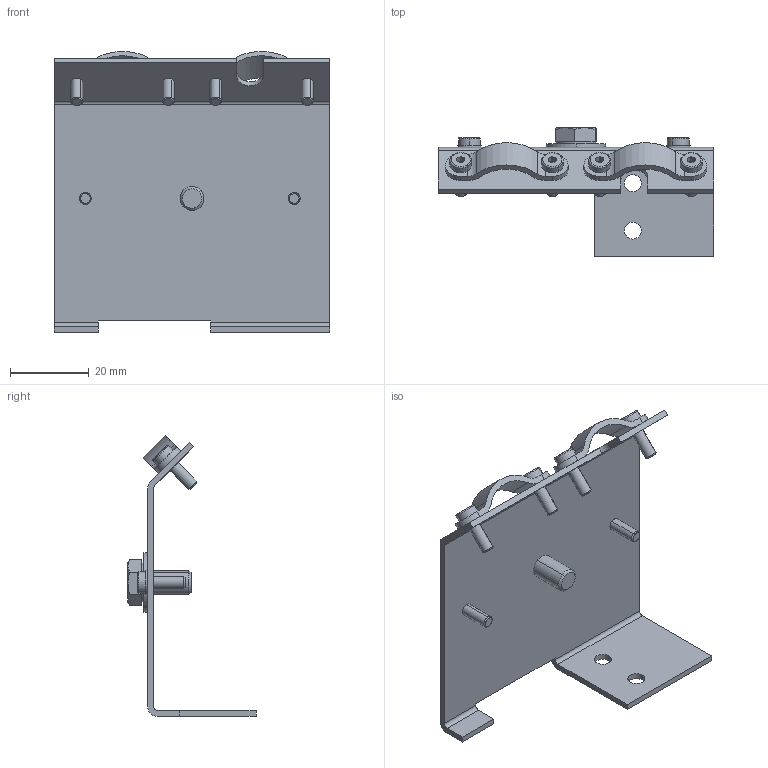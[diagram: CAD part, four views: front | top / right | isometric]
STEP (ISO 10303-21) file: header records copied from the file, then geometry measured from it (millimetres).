
FILE_DESCRIPTION (( 'STEP AP214' ), '1' );
FILE_NAME ('3D 斁麧錪 珅2-4_5.STEP', '2016-05-19T15:55:13', ( '' ), ( '' ), 'SwSTEP 2.0', 'SolidWorks 2014', '' );
FILE_SCHEMA (( 'AUTOMOTIVE_DESIGN' ));
Length unit declared in the file: millimetre
Products named in the file (7): ÏÊ1_çàæèì; 珅2-4_5; 3D 斁麧錪 珅2-4_5; hex screw gradeab_din_ISO 4017 - M6 x 12-N; curved spring lock washer 2_din_DIN 6904-7.3-FSt; plain washer small grade a_din_Washer DIN 433 - 3.2; socket head thin cap screw_din_DIN 7984 - M3 x 10 --- 8.5N
Assembly tree (13 placements, depth 2):
  3D 斁麧錪 珅2-4_5
    珅2-4_5
    ÏÊ1_çàæèì  x2
    socket head thin cap screw_din_DIN 7984 - M3 x 10 --- 8.5N  x6
    plain washer small grade a_din_Washer DIN 433 - 3.2  x2
    curved spring lock washer 2_din_DIN 6904-7.3-FSt
    hex screw gradeab_din_ISO 4017 - M6 x 12-N
Bounding box: 70 x 32.5 x 71.27 mm (x, y, z)
Volume: 10743.3 mm3; surface area: 15408.6 mm2
Topology: 13 solids, 13 shells, 289 faces, 690 edges, 420 vertices
Faces by surface type: plane 142, cylinder 89, cone 32, torus 26
Entity records: 4362 total; most frequent: CARTESIAN_POINT 775, DIRECTION 744, ORIENTED_EDGE 652, EDGE_CURVE 326, AXIS2_PLACEMENT_3D 288, VERTEX_POINT 207, LINE 168, VECTOR 168
